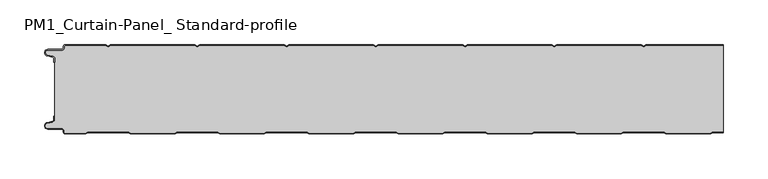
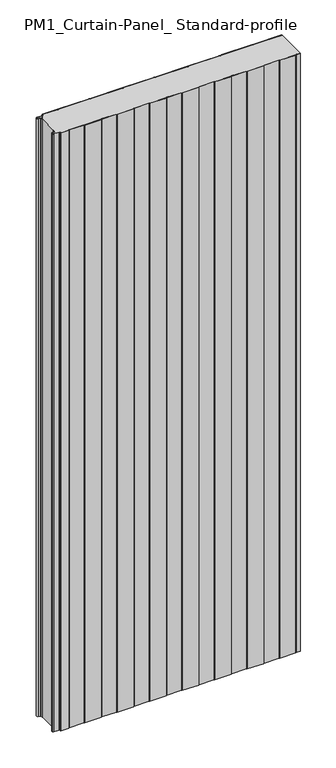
"""IFC4 building model written with IfcOpenShell, lengths in millimetres: plate geometry, PM1_Curtain-Panel_ Standard-profile : ACH_PM1_Acoustic-Sectioning-Panel_100M."""

from ifc_helpers import new_model, si_unit, point, frame_2d, origin, origin_with_axes, place, context, project, spatial, polyline, circle_curve, trimmed, segment, composite_curve, outline, extrude, source, transform, mapped, element, save


def pm1_curtain_panel_standard_profile_0c0490de(model_context):
    return source(origin(), model_context, "Body", "SweptSolid", [
        extrude(outline(composite_curve([segment(trimmed(circle_curve(frame_2d((-377.0119739, -15.878557)), 2.0), [point((-375.0119739, -15.878557))], [point((-376.5620718, -13.9298169))], True, "CARTESIAN"), True, "CONTINUOUS"), segment(polyline([(-376.5620718, -13.9298169), (-382.7217978, -12.507732)]), True, "CONTINUOUS"), segment(trimmed(circle_curve(frame_2d((-381.9119739, -9.0)), 3.6), [point((-382.7217978, -12.507732))], [point((-381.9119739, -5.4))], False, "CARTESIAN"), True, "CONTINUOUS"), segment(polyline([(-381.9119739, -5.4), (-366.4119739, -5.4)]), True, "CONTINUOUS"), segment(trimmed(circle_curve(frame_2d((-366.4119739, -3.4)), 2.0), [point((-366.4119739, -5.4))], [point((-364.4119739, -3.4))], True, "CARTESIAN"), True, "CONTINUOUS"), segment(polyline([(-364.4119739, -3.4), (-364.4119739, -2.0)]), True, "CONTINUOUS"), segment(trimmed(circle_curve(frame_2d((-362.4119739, -2.0)), 2.0), [point((-364.4119739, -2.0))], [point((-362.4119739, 0.0))], False, "CARTESIAN"), True, "CONTINUOUS"), segment(polyline([(-362.4119739, 0.0), (-317.1119734, 0.0), (-314.4119739, -1.5588455), (-311.7119745, 0.0), (-217.1119734, 0.0), (-214.4119739, -1.5588455), (-211.7119745, 0.0), (-117.1119734, 0.0), (-114.4119739, -1.5588455), (-111.7119745, 0.0), (-17.1119734, 0.0), (-14.4119739, -1.5588455), (-11.7119745, 0.0), (82.8880266, 0.0), (85.5880261, -1.5588455), (88.2880255, 0.0), (182.8880266, 0.0), (185.5880261, -1.5588455), (188.2880255, 0.0), (282.8880266, 0.0), (285.5880261, -1.5588455), (288.2880255, 0.0), (375.0119739, 0.0), (375.0119739, -0.8), (288.5023849, -0.8), (285.5880261, -2.482606), (282.6736672, -0.8), (188.5023849, -0.8), (185.5880261, -2.482606), (182.6736672, -0.8), (88.5023849, -0.8), (85.5880261, -2.482606), (82.6736672, -0.8), (-11.4976151, -0.8), (-14.4119739, -2.482606), (-17.3263328, -0.8), (-111.4976151, -0.8), (-114.4119739, -2.482606), (-117.3263328, -0.8), (-211.4976151, -0.8), (-214.4119739, -2.482606), (-217.3263328, -0.8), (-311.4976151, -0.8), (-314.4119739, -2.482606), (-317.3263328, -0.8), (-362.4119739, -0.8)]), True, "CONTINUOUS"), segment(trimmed(circle_curve(frame_2d((-362.4119739, -2.0)), 1.2), [point((-362.4119739, -0.8))], [point((-363.6119739, -2.0))], True, "CARTESIAN"), True, "CONTINUOUS"), segment(polyline([(-363.6119739, -2.0), (-363.6119739, -3.4)]), True, "CONTINUOUS"), segment(trimmed(circle_curve(frame_2d((-366.4119739, -3.4)), 2.8), [point((-363.6119739, -3.4))], [point((-366.4119739, -6.2))], False, "CARTESIAN"), True, "CONTINUOUS"), segment(polyline([(-366.4119739, -6.2), (-381.9119739, -6.2)]), True, "CONTINUOUS"), segment(trimmed(circle_curve(frame_2d((-381.9119739, -9.0)), 2.8), [point((-381.9119739, -6.2))], [point((-382.541837, -11.7282362))], True, "CARTESIAN"), True, "CONTINUOUS"), segment(polyline([(-382.541837, -11.7282362), (-376.3821109, -13.150321)]), True, "CONTINUOUS"), segment(trimmed(circle_curve(frame_2d((-377.0119739, -15.878557)), 2.8), [point((-376.3821109, -13.150321))], [point((-374.2119739, -15.878557))], False, "CARTESIAN"), True, "CONTINUOUS"), segment(polyline([(-374.2119739, -15.878557), (-374.2119739, -20.0), (-375.0119739, -20.0), (-375.0119739, -15.878557)]), True, "CONTINUOUS")], self_intersect=False)), origin_with_axes(), (0.0, 0.0, 1.0), 1945.7507136),
        extrude(outline(composite_curve([segment(polyline([(-374.2119739, -84.121443), (-374.2119739, -15.8785573)]), True, "CONTINUOUS"), segment(trimmed(circle_curve(frame_2d((-377.0119739, -15.8785573)), 2.8), [point((-374.2119739, -15.8785573))], [point((-376.3821109, -13.1503212))], True, "CARTESIAN"), True, "CONTINUOUS"), segment(polyline([(-376.3821109, -13.1503212), (-382.541837, -11.7282362)]), True, "CONTINUOUS"), segment(trimmed(circle_curve(frame_2d((-381.911974, -9.0)), 2.8), [point((-382.541837, -11.7282362))], [point((-381.911974, -6.2))], False, "CARTESIAN"), True, "CONTINUOUS"), segment(polyline([(-381.911974, -6.2), (-366.411974, -6.2)]), True, "CONTINUOUS"), segment(trimmed(circle_curve(frame_2d((-366.411974, -3.4)), 2.8), [point((-366.411974, -6.2))], [point((-363.611974, -3.4))], True, "CARTESIAN"), True, "CONTINUOUS"), segment(polyline([(-363.611974, -3.4), (-363.611974, -2.0)]), True, "CONTINUOUS"), segment(trimmed(circle_curve(frame_2d((-362.411974, -2.0)), 1.2), [point((-363.611974, -2.0))], [point((-362.411974, -0.8))], False, "CARTESIAN"), True, "CONTINUOUS"), segment(polyline([(-362.411974, -0.8), (-317.3263329, -0.8), (-314.411974, -2.482606), (-311.4976152, -0.8), (-217.3263329, -0.8), (-214.411974, -2.482606), (-211.4976152, -0.8), (-117.3263329, -0.8), (-114.411974, -2.482606), (-111.4976152, -0.8), (-17.3263329, -0.8), (-14.411974, -2.482606), (-11.4976152, -0.8), (82.6736671, -0.8), (85.588026, -2.482606), (88.5023848, -0.8), (182.6736671, -0.8), (185.588026, -2.482606), (188.5023848, -0.8), (282.6736671, -0.8), (285.588026, -2.482606), (288.5023848, -0.8), (375.0119739, -0.8), (375.0119739, -97.7), (362.9717445, -97.7), (360.3736669, -99.2), (310.7985382, -99.2), (308.2004606, -97.7), (262.9717445, -97.7), (260.3736669, -99.2), (210.7985382, -99.2), (208.2004606, -97.7), (162.9717445, -97.7), (160.3736669, -99.2), (110.7985382, -99.2), (108.2004606, -97.7), (62.9717445, -97.7), (60.3736669, -99.2), (10.7985382, -99.2), (8.2004606, -97.7), (-37.0282555, -97.7), (-39.6263331, -99.2), (-89.2014618, -99.2), (-91.7995394, -97.7), (-137.0282555, -97.7), (-139.6263331, -99.2), (-189.2014618, -99.2), (-191.7995394, -97.7), (-237.0282555, -97.7), (-239.6263331, -99.2), (-289.2014618, -99.2), (-291.7995394, -97.7), (-337.0282555, -97.7), (-339.6263331, -99.2), (-362.4119739, -99.2)]), True, "CONTINUOUS"), segment(trimmed(circle_curve(frame_2d((-362.4119739, -98.0)), 1.2), [point((-362.4119739, -99.2))], [point((-363.6119739, -98.0))], False, "CARTESIAN"), True, "CONTINUOUS"), segment(polyline([(-363.6119739, -98.0), (-363.6119739, -96.5999998)]), True, "CONTINUOUS"), segment(trimmed(circle_curve(frame_2d((-366.4119739, -96.5999998)), 2.8), [point((-363.6119739, -96.5999998))], [point((-366.4119739, -93.7999998))], True, "CARTESIAN"), True, "CONTINUOUS"), segment(polyline([(-366.4119739, -93.7999998), (-381.9119739, -93.7999998)]), True, "CONTINUOUS"), segment(trimmed(circle_curve(frame_2d((-381.9119739, -91.0)), 2.7999998), [point((-381.9119739, -93.7999998))], [point((-382.5418369, -88.271764))], False, "CARTESIAN"), True, "CONTINUOUS"), segment(polyline([(-382.5418369, -88.271764), (-376.3821109, -86.8496792)]), True, "CONTINUOUS"), segment(trimmed(circle_curve(frame_2d((-377.0119739, -84.121443)), 2.8), [point((-376.3821109, -86.8496792))], [point((-374.2119739, -84.121443))], True, "CARTESIAN"), True, "CONTINUOUS")], self_intersect=False)), origin_with_axes(), (0.0, 0.0, 1.0), 1945.7507136),
        extrude(outline(composite_curve([segment(trimmed(circle_curve(frame_2d((-362.4119739, -98.0)), 2.0), [point((-362.4119739, -100.0))], [point((-364.4119739, -98.0))], False, "CARTESIAN"), True, "CONTINUOUS"), segment(polyline([(-364.4119739, -98.0), (-364.4119739, -96.6)]), True, "CONTINUOUS"), segment(trimmed(circle_curve(frame_2d((-366.4119739, -96.6)), 2.0), [point((-364.4119739, -96.6))], [point((-366.4119739, -94.6))], True, "CARTESIAN"), True, "CONTINUOUS"), segment(polyline([(-366.4119739, -94.6), (-381.9119739, -94.6)]), True, "CONTINUOUS"), segment(trimmed(circle_curve(frame_2d((-381.9119739, -91.0)), 3.6), [point((-381.9119739, -94.6))], [point((-382.7217979, -87.4922678))], False, "CARTESIAN"), True, "CONTINUOUS"), segment(polyline([(-382.7217979, -87.4922678), (-376.5620718, -86.070183)]), True, "CONTINUOUS"), segment(trimmed(circle_curve(frame_2d((-377.0119739, -84.121443)), 2.0), [point((-376.5620718, -86.070183))], [point((-375.0119739, -84.121443))], True, "CARTESIAN"), True, "CONTINUOUS"), segment(polyline([(-375.0119739, -84.121443), (-375.0119739, -80.0), (-374.2119739, -80.0), (-374.2119739, -84.121443)]), True, "CONTINUOUS"), segment(trimmed(circle_curve(frame_2d((-377.0119739, -84.121443)), 2.8), [point((-374.2119739, -84.121443))], [point((-376.3821109, -86.8496792))], False, "CARTESIAN"), True, "CONTINUOUS"), segment(polyline([(-376.3821109, -86.8496792), (-382.5418369, -88.271764)]), True, "CONTINUOUS"), segment(trimmed(circle_curve(frame_2d((-381.9119739, -91.0)), 2.8), [point((-382.5418369, -88.271764))], [point((-381.9119739, -93.8))], True, "CARTESIAN"), True, "CONTINUOUS"), segment(polyline([(-381.9119739, -93.8), (-366.4119739, -93.8)]), True, "CONTINUOUS"), segment(trimmed(circle_curve(frame_2d((-366.4119739, -96.6)), 2.8), [point((-366.4119739, -93.8))], [point((-363.6119739, -96.6))], False, "CARTESIAN"), True, "CONTINUOUS"), segment(polyline([(-363.6119739, -96.6), (-363.6119739, -98.0)]), True, "CONTINUOUS"), segment(trimmed(circle_curve(frame_2d((-362.4119739, -98.0)), 1.2), [point((-363.6119739, -98.0))], [point((-362.4119739, -99.2))], True, "CARTESIAN"), True, "CONTINUOUS"), segment(polyline([(-362.4119739, -99.2), (-339.6263331, -99.2), (-337.0282555, -97.7), (-291.7995394, -97.7), (-289.2014618, -99.2), (-239.6263331, -99.2), (-237.0282555, -97.7), (-191.7995394, -97.7), (-189.2014618, -99.2), (-139.6263331, -99.2), (-137.0282555, -97.7), (-91.7995394, -97.7), (-89.2014618, -99.2), (-39.6263331, -99.2), (-37.0282555, -97.7), (8.2004606, -97.7), (10.7985382, -99.2), (60.3736669, -99.2), (62.9717445, -97.7), (108.2004606, -97.7), (110.7985382, -99.2), (160.3736669, -99.2), (162.9717445, -97.7), (208.2004606, -97.7), (210.7985382, -99.2), (260.3736669, -99.2), (262.9717445, -97.7), (308.2004606, -97.7), (310.7985382, -99.2), (360.3736669, -99.2), (362.9717445, -97.7), (375.0119739, -97.7), (375.0119739, -98.5), (363.1861037, -98.5), (360.5880261, -100.0), (310.584179, -100.0), (307.9861014, -98.5), (263.1861037, -98.5), (260.5880261, -100.0), (210.584179, -100.0), (207.9861014, -98.5), (163.1861037, -98.5), (160.5880261, -100.0), (110.584179, -100.0), (107.9861014, -98.5), (63.1861037, -98.5), (60.5880261, -100.0), (10.584179, -100.0), (7.9861014, -98.5), (-36.8138963, -98.5), (-39.4119739, -100.0), (-89.415821, -100.0), (-92.0138986, -98.5), (-136.8138963, -98.5), (-139.4119739, -100.0), (-189.415821, -100.0), (-192.0138986, -98.5), (-236.8138963, -98.5), (-239.4119739, -100.0), (-289.415821, -100.0), (-292.0138986, -98.5), (-336.8138963, -98.5), (-339.4119739, -100.0), (-362.4119739, -100.0)]), True, "CONTINUOUS")], self_intersect=False)), origin_with_axes(), (0.0, 0.0, 1.0), 1945.7507136),
    ])


if __name__ == "__main__":
    model = new_model("IFC4")
    model_context = context("Model", 3, world=origin())
    ifc_project = project(units=[si_unit("LENGTHUNIT", "METRE", prefix="MILLI")], contexts=[model_context])
    site = spatial("IfcSite", under=ifc_project)
    building = spatial("IfcBuilding", under=site)
    placement = place(None, origin())
    pm1_curtain_panel_standard_profile_shape = pm1_curtain_panel_standard_profile_0c0490de(model_context)
    element("IfcPlate", 1, ObjectType="PM1_Curtain-Panel_ Standard-profile : ACH_PM1_Acoustic-Sectioning-Panel_100M", at=placement, inside=building, context=model_context, shape_type="MappedRepresentation", body=[
        mapped(pm1_curtain_panel_standard_profile_shape, transform((0.0, 0.0, 0.0), x_axis=(1.0, 0.0, 0.0), y_axis=(0.0, 1.0, 0.0), z_axis=(0.0, 0.0, 1.0))),
    ])
    save(model, "model.ifc")
